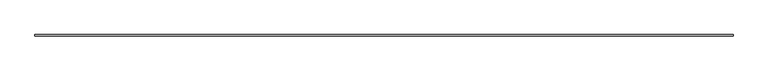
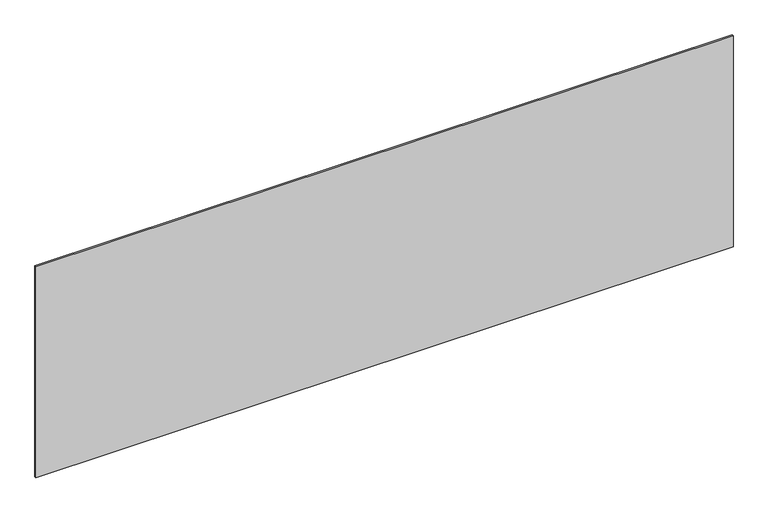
"""IFC4 building model written with IfcOpenShell, lengths in millimetres: plate geometry, システム パネル : 標準."""

from ifc_helpers import new_model, si_unit, origin, origin_with_axes, place, context, project, spatial, polyline, outline, extrude, source, transform, mapped, element, save


def plate_5699c27d(model_context):
    return source(origin(), model_context, "Body", "SweptSolid", [
        extrude(outline(polyline([(2281.6666667, -5.0), (-2281.6666667, -5.0), (-2281.6666667, 5.0), (2281.6666667, 5.0), (2281.6666667, -5.0)])), origin_with_axes(), (0.0, 0.0, 1.0), 1460.5679589),
    ])


if __name__ == "__main__":
    model = new_model("IFC4")
    model_context = context("Model", 3, world=origin())
    ifc_project = project(units=[si_unit("LENGTHUNIT", "METRE", prefix="MILLI")], contexts=[model_context])
    site = spatial("IfcSite", under=ifc_project)
    building = spatial("IfcBuilding", under=site)
    placement = place(None, origin())
    plate_shape = plate_5699c27d(model_context)
    element("IfcPlate", 1, ObjectType="システム パネル : 標準", at=placement, inside=building, context=model_context, shape_type="MappedRepresentation", body=[
        mapped(plate_shape, transform((0.0, 0.0, 0.0), x_axis=(1.0, 0.0, 0.0), y_axis=(0.0, 1.0, 0.0), z_axis=(0.0, 0.0, 1.0))),
    ])
    save(model, "model.ifc")
